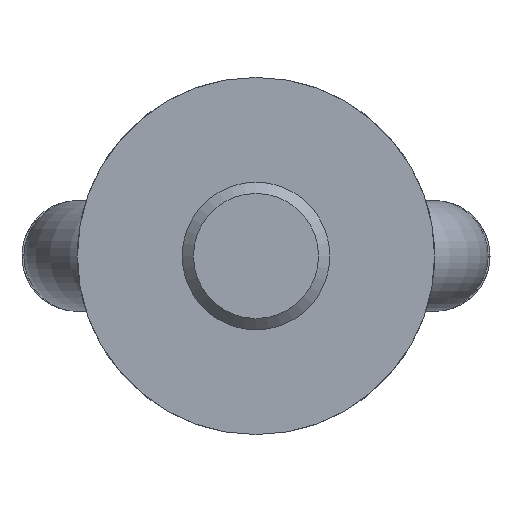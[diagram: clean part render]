
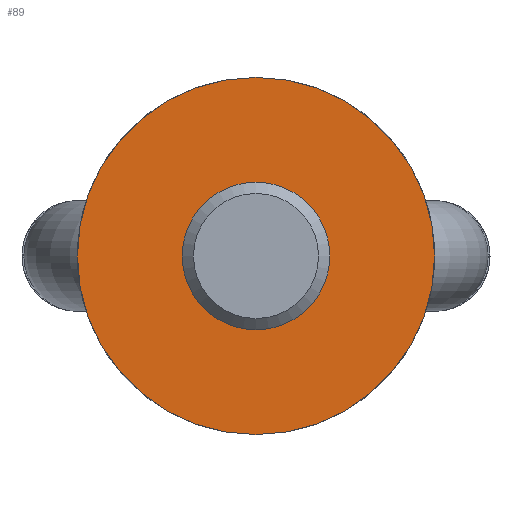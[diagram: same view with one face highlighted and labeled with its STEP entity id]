
A CAD part, front view. The second image highlights one B-rep face of the part: STEP entity #89.
In plain terms, the highlighted planar face has unit normal (0, -1, 0).
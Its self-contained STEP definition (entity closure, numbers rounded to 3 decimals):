
#89 = ADVANCED_FACE( '', ( #139, #140 ), #141, .F. );
#139 = FACE_BOUND( '', #209, .T. );
#140 = FACE_OUTER_BOUND( '', #210, .T. );
#141 = PLANE( '', #211 );
#209 = EDGE_LOOP( '', ( #343 ) );
#210 = EDGE_LOOP( '', ( #344 ) );
#211 = AXIS2_PLACEMENT_3D( '', #345, #346, #347 );
#343 = ORIENTED_EDGE( '', *, *, #473, .T. );
#344 = ORIENTED_EDGE( '', *, *, #474, .T. );
#345 = CARTESIAN_POINT( '', ( 29., 0., 0. ) );
#346 = DIRECTION( '', ( 0., 1., 0. ) );
#347 = DIRECTION( '', ( 0., 0., 1. ) );
#473 = EDGE_CURVE( '', #560, #560, #561, .T. );
#474 = EDGE_CURVE( '', #562, #562, #563, .T. );
#560 = VERTEX_POINT( '', #1044 );
#561 = CIRCLE( '', #1045, 12. );
#562 = VERTEX_POINT( '', #1046 );
#563 = CIRCLE( '', #1047, 29. );
#1044 = CARTESIAN_POINT( '', ( 0., 0., 12. ) );
#1045 = AXIS2_PLACEMENT_3D( '', #1115, #1116, #1117 );
#1046 = CARTESIAN_POINT( '', ( 0., 0., -29. ) );
#1047 = AXIS2_PLACEMENT_3D( '', #1118, #1119, #1120 );
#1115 = CARTESIAN_POINT( '', ( 0., 0., 0. ) );
#1116 = DIRECTION( '', ( 0., 1., 0. ) );
#1117 = DIRECTION( '', ( 0., 0., 1. ) );
#1118 = CARTESIAN_POINT( '', ( 0., 0., 0. ) );
#1119 = DIRECTION( '', ( 0., -1., 0. ) );
#1120 = DIRECTION( '', ( 0., 0., -1. ) );
